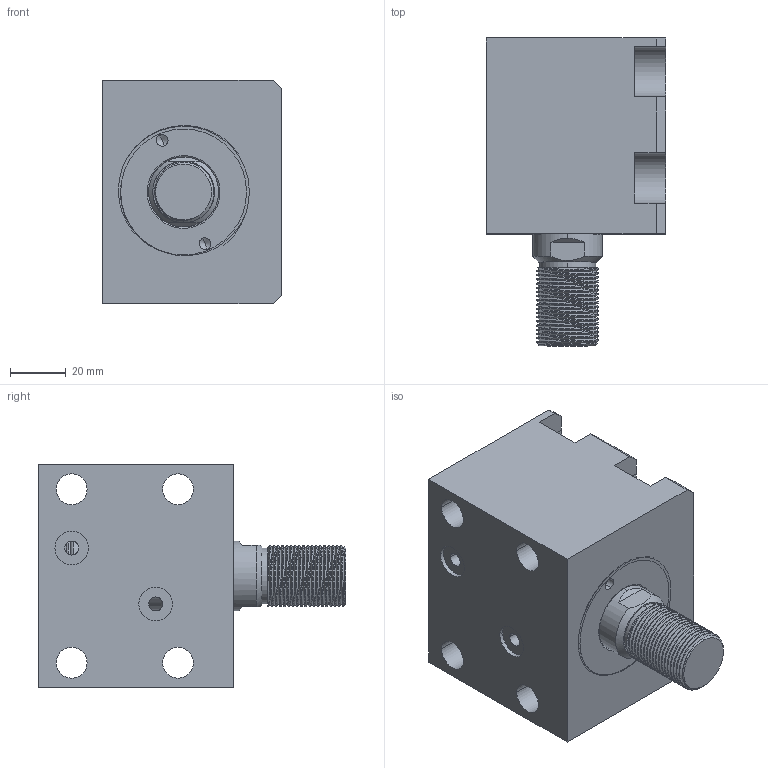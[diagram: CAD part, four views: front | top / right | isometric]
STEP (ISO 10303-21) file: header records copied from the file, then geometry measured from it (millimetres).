
FILE_DESCRIPTION (( 'STEP AP214' ), '1' );
FILE_NAME ('chtb-lam40x15w_asm.STEP', '2018-05-30T02:51:49', ( 'Windows' ), ( 'Microsoft' ), 'SwSTEP 2.0', 'SolidWorks 2015', '' );
FILE_SCHEMA (( 'AUTOMOTIVE_DESIGN' ));
Length unit declared in the file: millimetre
Products named in the file (4): CHTB-SD40X15WHSG; CHTB-SD40QG; CHTB-LAM40X15NBT; chtb-lam40x15w_asm
Assembly tree (3 placements, depth 2):
  chtb-lam40x15w_asm
    CHTB-LAM40X15NBT
    CHTB-SD40QG
    CHTB-SD40X15WHSG
Bounding box: 64 x 110 x 80 mm (x, y, z)
Volume: 325406.3 mm3; surface area: 70010.7 mm2
Topology: 3 solids, 4 shells, 188 faces, 520 edges, 347 vertices
Faces by surface type: cylinder 108, plane 42, bspline 16, torus 12, cone 10
Entity records: 13242 total; most frequent: CARTESIAN_POINT 8617, ORIENTED_EDGE 1028, DIRECTION 837, EDGE_CURVE 514, VERTEX_POINT 347, AXIS2_PLACEMENT_3D 331, EDGE_LOOP 215, ADVANCED_FACE 188
